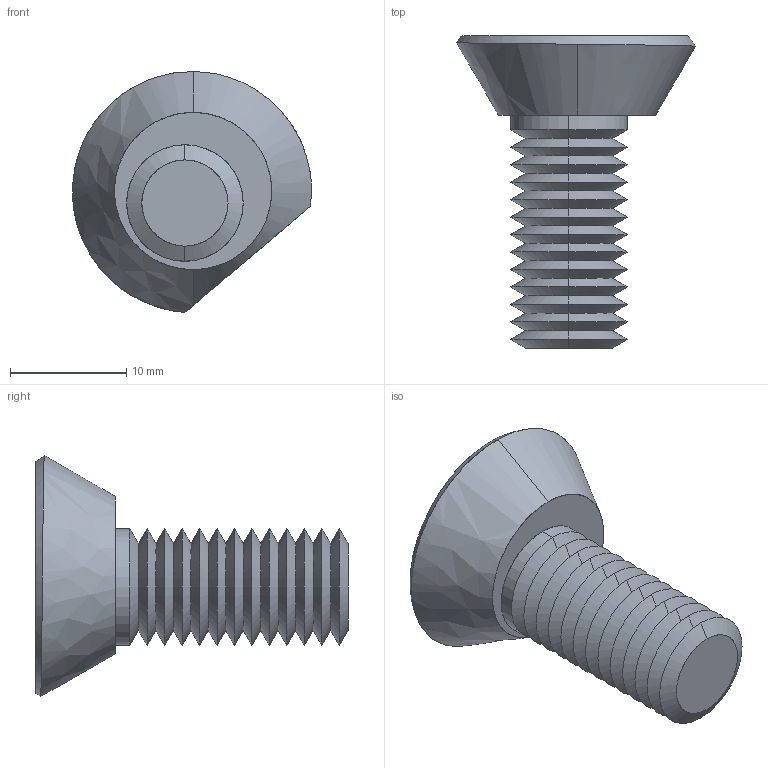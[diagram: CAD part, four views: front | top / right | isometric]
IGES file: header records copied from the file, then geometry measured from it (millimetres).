
Start section: SolidWorks IGES file using analytic representation for surfaces
Global section: file name: C:\Users\IanO\Desktop\Temp File\General\12111_v2\12111_v2_20180517_IGES\12111.W0010.igs; native system: SolidWorks 2017; preprocessor: SolidWorks 2017; author: IanO; date: 180522.151944; units: millimetre
Bounding box: 20.52 x 26.8 x 20.69 mm (x, y, z)
Surface area: 2002.3 mm2 (no closed solid volume)
Topology: 0 solids, 0 shells, 80 faces, 612 edges, 610 vertices
Faces by surface type: revolution 63, bspline 17
